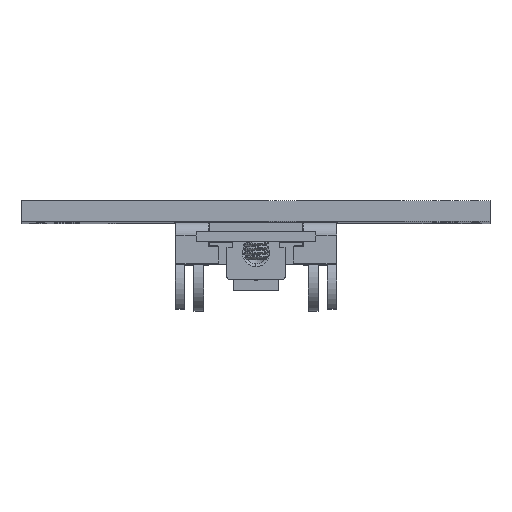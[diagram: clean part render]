
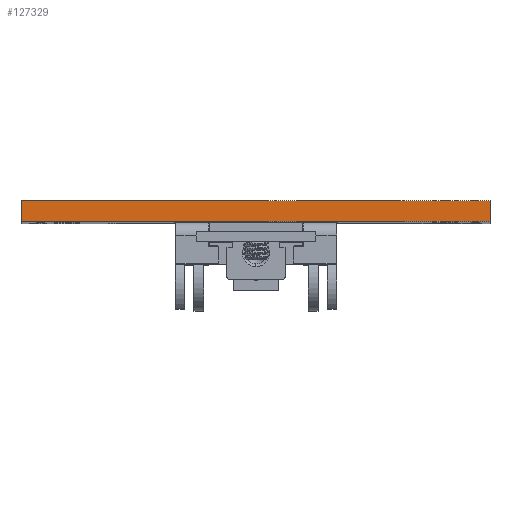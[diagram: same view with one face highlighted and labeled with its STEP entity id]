
A CAD part, top view. The second image highlights one B-rep face of the part: STEP entity #127329.
In plain terms, the highlighted planar face has unit normal (0, 0, 1).
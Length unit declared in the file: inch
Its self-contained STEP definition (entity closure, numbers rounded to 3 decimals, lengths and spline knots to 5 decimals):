
#13872 = CARTESIAN_POINT ( 'NONE',  ( 1.425, -0.125, 4. ) ) ;
#19503 = ORIENTED_EDGE ( 'NONE', *, *, #165866, .T. ) ;
#21747 = EDGE_CURVE ( 'NONE', #35787, #115925, #123612, .T. ) ;
#23336 = FACE_OUTER_BOUND ( 'NONE', #199253, .T. ) ;
#23731 = VECTOR ( 'NONE', #176452, 39.37008 ) ;
#35787 = VERTEX_POINT ( 'NONE', #209175 ) ;
#36791 = DIRECTION ( 'NONE',  ( 1., 0., 0. ) ) ;
#38108 = VECTOR ( 'NONE', #36791, 39.37008 ) ;
#46947 = DIRECTION ( 'NONE',  ( 0., 1., 0. ) ) ;
#71900 = AXIS2_PLACEMENT_3D ( 'NONE', #76055, #91154, #142552 ) ;
#76055 = CARTESIAN_POINT ( 'NONE',  ( 0., -0.125, 4. ) ) ;
#91154 = DIRECTION ( 'NONE',  ( 0., 0., 1. ) ) ;
#99663 = CARTESIAN_POINT ( 'NONE',  ( 0., 0., 4. ) ) ;
#101385 = LINE ( 'NONE', #194424, #23731 ) ;
#104232 = ORIENTED_EDGE ( 'NONE', *, *, #153785, .T. ) ;
#108410 = CARTESIAN_POINT ( 'NONE',  ( 0., -0.125, 4. ) ) ;
#109820 = DIRECTION ( 'NONE',  ( 1., 0., 0. ) ) ;
#111000 = VECTOR ( 'NONE', #46947, 39.37008 ) ;
#115925 = VERTEX_POINT ( 'NONE', #199747 ) ;
#123612 = LINE ( 'NONE', #99663, #38108 ) ;
#127329 = ADVANCED_FACE ( 'NONE', ( #23336 ), #157600, .T. ) ;
#133168 = ORIENTED_EDGE ( 'NONE', *, *, #21747, .F. ) ;
#142552 = DIRECTION ( 'NONE',  ( 1., 0., 0. ) ) ;
#149238 = CARTESIAN_POINT ( 'NONE',  ( 1.425, -0.125, 4. ) ) ;
#153785 = EDGE_CURVE ( 'NONE', #160069, #192909, #212361, .T. ) ;
#156430 = LINE ( 'NONE', #149238, #111000 ) ;
#157600 = PLANE ( 'NONE',  #71900 ) ;
#160069 = VERTEX_POINT ( 'NONE', #221373 ) ;
#165866 = EDGE_CURVE ( 'NONE', #192909, #115925, #156430, .T. ) ;
#173743 = ORIENTED_EDGE ( 'NONE', *, *, #198417, .F. ) ;
#176452 = DIRECTION ( 'NONE',  ( 0., 1., 0. ) ) ;
#192909 = VERTEX_POINT ( 'NONE', #13872 ) ;
#194424 = CARTESIAN_POINT ( 'NONE',  ( -1.425, -0.125, 4. ) ) ;
#198417 = EDGE_CURVE ( 'NONE', #160069, #35787, #101385, .T. ) ;
#199253 = EDGE_LOOP ( 'NONE', ( #133168, #173743, #104232, #19503 ) ) ;
#199747 = CARTESIAN_POINT ( 'NONE',  ( 1.425, 0., 4. ) ) ;
#209175 = CARTESIAN_POINT ( 'NONE',  ( -1.425, 0., 4. ) ) ;
#209804 = VECTOR ( 'NONE', #109820, 39.37008 ) ;
#212361 = LINE ( 'NONE', #108410, #209804 ) ;
#221373 = CARTESIAN_POINT ( 'NONE',  ( -1.425, -0.125, 4. ) ) ;
